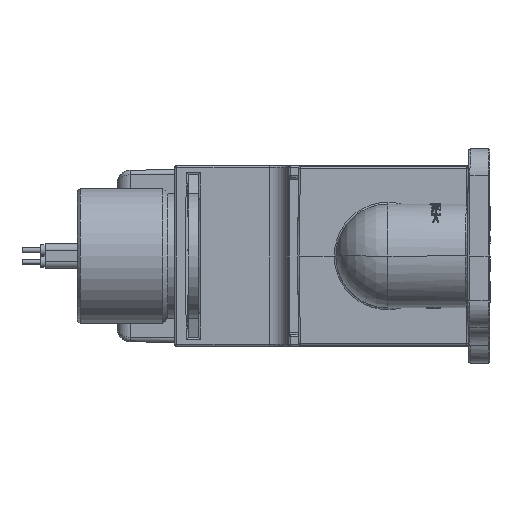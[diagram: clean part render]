
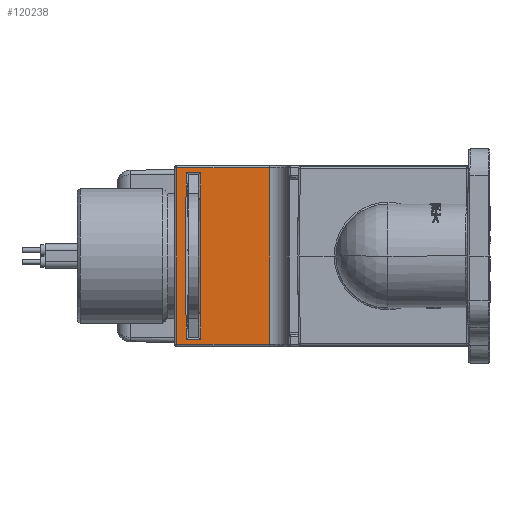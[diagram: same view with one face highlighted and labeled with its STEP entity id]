
A CAD part, left-side view. The second image highlights one B-rep face of the part: STEP entity #120238.
In plain terms, the highlighted planar face has unit normal (-1, 0, 0).
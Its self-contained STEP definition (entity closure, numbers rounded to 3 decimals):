
#82 = VECTOR ( 'NONE', #117257, 1000. ) ;
#732 = CARTESIAN_POINT ( 'NONE',  ( -47.7, 22.042, 29.28 ) ) ;
#2314 = B_SPLINE_CURVE_WITH_KNOTS ( 'NONE', 3,
 ( #4627, #81375, #29982, #147048, #132702, #56050, #95667, #158862, #43398, #133551 ),
 .UNSPECIFIED., .F., .F.,
 ( 4, 2, 2, 2, 4 ),
 ( 0., 0.003, 0.006, 0.009, 0.013 ),
 .UNSPECIFIED. ) ;
#4028 = DIRECTION ( 'NONE',  ( 0., -0.014, -1. ) ) ;
#4124 = CARTESIAN_POINT ( 'NONE',  ( -47.7, 20.73, 6.263 ) ) ;
#4627 = CARTESIAN_POINT ( 'NONE',  ( -47.7, 20.73, 6.263 ) ) ;
#5202 = LINE ( 'NONE', #14575, #38179 ) ;
#5783 = ORIENTED_EDGE ( 'NONE', *, *, #145728, .T. ) ;
#5880 = EDGE_CURVE ( 'NONE', #164061, #144860, #21780, .T. ) ;
#7757 = VERTEX_POINT ( 'NONE', #107170 ) ;
#8002 = DIRECTION ( 'NONE',  ( 0., 0.014, -1. ) ) ;
#8539 = LINE ( 'NONE', #73448, #91900 ) ;
#14575 = CARTESIAN_POINT ( 'NONE',  ( -47.7, 11., -9.231 ) ) ;
#14768 = VERTEX_POINT ( 'NONE', #22468 ) ;
#19712 = VERTEX_POINT ( 'NONE', #128695 ) ;
#21780 = B_SPLINE_CURVE_WITH_KNOTS ( 'NONE', 3,
 ( #32763, #147387, #160024, #146552, #108667, #68229, #69035, #81712, #45393, #84213 ),
 .UNSPECIFIED., .F., .F.,
 ( 4, 2, 2, 2, 4 ),
 ( 0., 0.003, 0.006, 0.009, 0.013 ),
 .UNSPECIFIED. ) ;
#21916 = VECTOR ( 'NONE', #163929, 1000. ) ;
#22468 = CARTESIAN_POINT ( 'NONE',  ( -47.7, 22.328, -9.231 ) ) ;
#23841 = ORIENTED_EDGE ( 'NONE', *, *, #118762, .T. ) ;
#26927 = VECTOR ( 'NONE', #110180, 1000. ) ;
#29982 = CARTESIAN_POINT ( 'NONE',  ( -47.7, 20.763, 4.176 ) ) ;
#30963 = CARTESIAN_POINT ( 'NONE',  ( -47.7, 22.873, 28.954 ) ) ;
#32763 = CARTESIAN_POINT ( 'NONE',  ( -47.7, 22.37, -6.263 ) ) ;
#35464 = ORIENTED_EDGE ( 'NONE', *, *, #165753, .T. ) ;
#38179 = VECTOR ( 'NONE', #104770, 1000. ) ;
#40695 = ORIENTED_EDGE ( 'NONE', *, *, #147186, .T. ) ;
#43026 = VERTEX_POINT ( 'NONE', #142398 ) ;
#43398 = CARTESIAN_POINT ( 'NONE',  ( -47.7, 20.752, -5.22 ) ) ;
#45393 = CARTESIAN_POINT ( 'NONE',  ( -47.7, 22.348, 5.22 ) ) ;
#48186 = DIRECTION ( 'NONE',  ( 0., 1., 0. ) ) ;
#49610 = ORIENTED_EDGE ( 'NONE', *, *, #5880, .T. ) ;
#54606 = EDGE_CURVE ( 'NONE', #128141, #80466, #60007, .T. ) ;
#56050 = CARTESIAN_POINT ( 'NONE',  ( -47.7, 20.781, -1.044 ) ) ;
#58572 = LINE ( 'NONE', #74542, #91504 ) ;
#60007 = LINE ( 'NONE', #113898, #75351 ) ;
#60273 = LINE ( 'NONE', #111723, #21916 ) ;
#62105 = CARTESIAN_POINT ( 'NONE',  ( -47.7, 22.328, 9.231 ) ) ;
#63754 = EDGE_CURVE ( 'NONE', #19712, #7757, #58572, .T. ) ;
#64172 = LINE ( 'NONE', #80201, #82 ) ;
#64655 = VERTEX_POINT ( 'NONE', #102556 ) ;
#68229 = CARTESIAN_POINT ( 'NONE',  ( -47.7, 22.319, 1.044 ) ) ;
#69035 = CARTESIAN_POINT ( 'NONE',  ( -47.7, 22.322, 2.088 ) ) ;
#70646 = CARTESIAN_POINT ( 'NONE',  ( -47.7, 23.4, 9.8 ) ) ;
#73448 = CARTESIAN_POINT ( 'NONE',  ( -47.7, 13.119, -9.8 ) ) ;
#74236 = PLANE ( 'NONE',  #139375 ) ;
#74443 = EDGE_CURVE ( 'NONE', #99195, #121077, #93388, .T. ) ;
#74542 = CARTESIAN_POINT ( 'NONE',  ( -47.7, 20.223, 29.255 ) ) ;
#74862 = CARTESIAN_POINT ( 'NONE',  ( -47.7, 22.37, 6.263 ) ) ;
#75351 = VECTOR ( 'NONE', #48186, 1000. ) ;
#77697 = EDGE_CURVE ( 'NONE', #43026, #128141, #131910, .T. ) ;
#78095 = CARTESIAN_POINT ( 'NONE',  ( -47.7, 20.772, 9.231 ) ) ;
#79163 = DIRECTION ( 'NONE',  ( 0., -0.014, 1. ) ) ;
#79882 = LINE ( 'NONE', #30963, #26927 ) ;
#80201 = CARTESIAN_POINT ( 'NONE',  ( -47.7, 23.4, -10. ) ) ;
#80466 = VERTEX_POINT ( 'NONE', #70646 ) ;
#80537 = VERTEX_POINT ( 'NONE', #62105 ) ;
#80756 = CARTESIAN_POINT ( 'NONE',  ( -47.7, 21.053, 28.98 ) ) ;
#81375 = CARTESIAN_POINT ( 'NONE',  ( -47.7, 20.752, 5.22 ) ) ;
#81712 = CARTESIAN_POINT ( 'NONE',  ( -47.7, 22.337, 4.176 ) ) ;
#84213 = CARTESIAN_POINT ( 'NONE',  ( -47.7, 22.37, 6.263 ) ) ;
#86906 = DIRECTION ( 'NONE',  ( 0., -1., 0. ) ) ;
#87940 = VECTOR ( 'NONE', #4028, 1000. ) ;
#91026 = CARTESIAN_POINT ( 'NONE',  ( -47.7, 11., 29.123 ) ) ;
#91504 = VECTOR ( 'NONE', #8002, 1000. ) ;
#91900 = VECTOR ( 'NONE', #86906, 1000. ) ;
#93159 = EDGE_CURVE ( 'NONE', #64655, #43026, #8539, .T. ) ;
#93388 = LINE ( 'NONE', #80756, #87940 ) ;
#93543 = EDGE_CURVE ( 'NONE', #7757, #14768, #5202, .T. ) ;
#95667 = CARTESIAN_POINT ( 'NONE',  ( -47.7, 20.778, -2.088 ) ) ;
#97531 = EDGE_CURVE ( 'NONE', #80537, #99195, #60273, .T. ) ;
#99195 = VERTEX_POINT ( 'NONE', #78095 ) ;
#102556 = CARTESIAN_POINT ( 'NONE',  ( -47.7, 23.4, -9.8 ) ) ;
#104490 = EDGE_LOOP ( 'NONE', ( #40695, #165258, #122101, #148455 ) ) ;
#104770 = DIRECTION ( 'NONE',  ( 0., 1., 0. ) ) ;
#106613 = VECTOR ( 'NONE', #79163, 1000. ) ;
#107170 = CARTESIAN_POINT ( 'NONE',  ( -47.7, 20.772, -9.231 ) ) ;
#108381 = DIRECTION ( 'NONE',  ( 0., 0., 1. ) ) ;
#108667 = CARTESIAN_POINT ( 'NONE',  ( -47.7, 22.319, -1.044 ) ) ;
#110180 = DIRECTION ( 'NONE',  ( 0., 0.014, 1. ) ) ;
#111723 = CARTESIAN_POINT ( 'NONE',  ( -47.7, 11., 9.231 ) ) ;
#112152 = FACE_BOUND ( 'NONE', #157091, .T. ) ;
#113898 = CARTESIAN_POINT ( 'NONE',  ( -47.7, 23.6, 9.8 ) ) ;
#117116 = ORIENTED_EDGE ( 'NONE', *, *, #74443, .T. ) ;
#117257 = DIRECTION ( 'NONE',  ( 0., 0., -1. ) ) ;
#118762 = EDGE_CURVE ( 'NONE', #144860, #80537, #141498, .T. ) ;
#120238 = ADVANCED_FACE ( 'NONE', ( #112152, #127265 ), #74236, .F. ) ;
#121077 = VERTEX_POINT ( 'NONE', #4124 ) ;
#122101 = ORIENTED_EDGE ( 'NONE', *, *, #77697, .T. ) ;
#127265 = FACE_OUTER_BOUND ( 'NONE', #104490, .T. ) ;
#128141 = VERTEX_POINT ( 'NONE', #150077 ) ;
#128695 = CARTESIAN_POINT ( 'NONE',  ( -47.7, 20.73, -6.263 ) ) ;
#129495 = ORIENTED_EDGE ( 'NONE', *, *, #93543, .T. ) ;
#131910 = LINE ( 'NONE', #166797, #137264 ) ;
#132702 = CARTESIAN_POINT ( 'NONE',  ( -47.7, 20.781, 1.044 ) ) ;
#133551 = CARTESIAN_POINT ( 'NONE',  ( -47.7, 20.73, -6.263 ) ) ;
#134524 = ORIENTED_EDGE ( 'NONE', *, *, #63754, .T. ) ;
#137264 = VECTOR ( 'NONE', #108381, 1000. ) ;
#139375 = AXIS2_PLACEMENT_3D ( 'NONE', #91026, #143219, #154226 ) ;
#141498 = LINE ( 'NONE', #732, #106613 ) ;
#142398 = CARTESIAN_POINT ( 'NONE',  ( -47.7, 13.119, -9.8 ) ) ;
#143219 = DIRECTION ( 'NONE',  ( 1., 0., 0. ) ) ;
#144860 = VERTEX_POINT ( 'NONE', #74862 ) ;
#145728 = EDGE_CURVE ( 'NONE', #14768, #164061, #79882, .T. ) ;
#146552 = CARTESIAN_POINT ( 'NONE',  ( -47.7, 22.322, -2.088 ) ) ;
#147048 = CARTESIAN_POINT ( 'NONE',  ( -47.7, 20.778, 2.088 ) ) ;
#147186 = EDGE_CURVE ( 'NONE', #80466, #64655, #64172, .T. ) ;
#147387 = CARTESIAN_POINT ( 'NONE',  ( -47.7, 22.348, -5.22 ) ) ;
#148455 = ORIENTED_EDGE ( 'NONE', *, *, #54606, .T. ) ;
#150077 = CARTESIAN_POINT ( 'NONE',  ( -47.7, 13.119, 9.8 ) ) ;
#154226 = DIRECTION ( 'NONE',  ( 0., 0., -1. ) ) ;
#157091 = EDGE_LOOP ( 'NONE', ( #35464, #134524, #129495, #5783, #49610, #23841, #159316, #117116 ) ) ;
#157963 = CARTESIAN_POINT ( 'NONE',  ( -47.7, 22.37, -6.263 ) ) ;
#158862 = CARTESIAN_POINT ( 'NONE',  ( -47.7, 20.763, -4.176 ) ) ;
#159316 = ORIENTED_EDGE ( 'NONE', *, *, #97531, .T. ) ;
#160024 = CARTESIAN_POINT ( 'NONE',  ( -47.7, 22.337, -4.176 ) ) ;
#163929 = DIRECTION ( 'NONE',  ( 0., -1., 0. ) ) ;
#164061 = VERTEX_POINT ( 'NONE', #157963 ) ;
#165258 = ORIENTED_EDGE ( 'NONE', *, *, #93159, .T. ) ;
#165753 = EDGE_CURVE ( 'NONE', #121077, #19712, #2314, .T. ) ;
#166797 = CARTESIAN_POINT ( 'NONE',  ( -47.7, 13.119, 29.123 ) ) ;
